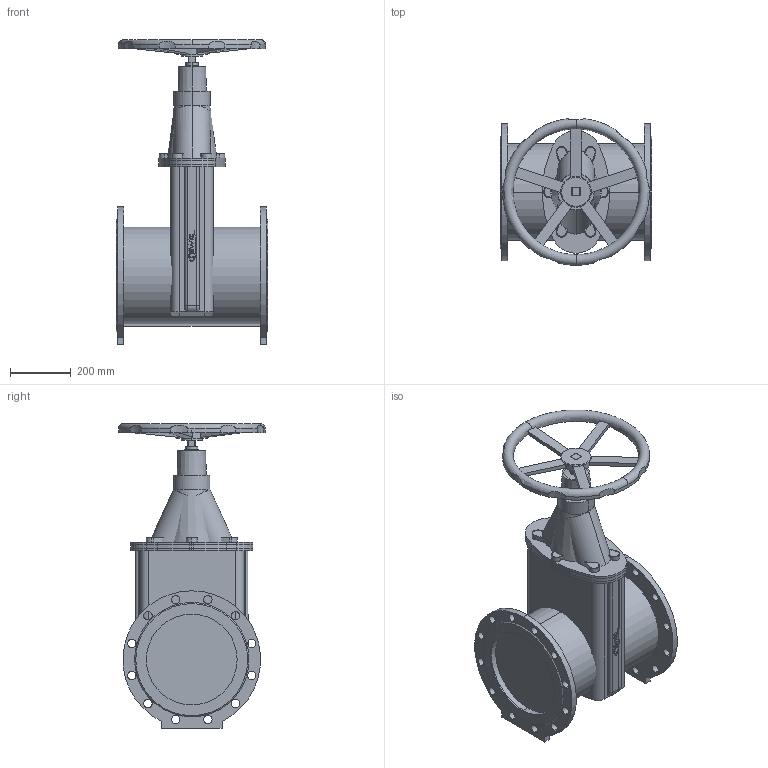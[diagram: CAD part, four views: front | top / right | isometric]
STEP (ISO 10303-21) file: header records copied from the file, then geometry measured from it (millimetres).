
FILE_DESCRIPTION(('STEP AP214'),'1');
FILE_NAME('S:/EK/USER/CAT6/3DHomepage/4700E2/4700E2-PN16-DN300-HANDRAD.STP','2012-04-23T12:46:20',(' '),(' '),'Spatial InterOp 3D',' ',' ');
FILE_SCHEMA(('automotive_design'));
Length unit declared in the file: millimetre
Products named in the file (57): 3D-Objekt
Bounding box: 500 x 484.36 x 1007.5 mm (x, y, z)
Volume: 75776076 mm3; surface area: 3190231.2 mm2
Topology: 57 solids, 57 shells, 574 faces, 1373 edges, 915 vertices
Faces by surface type: plane 284, cylinder 260, torus 12, cone 10, bspline 8
Entity records: 23237 total; most frequent: CARTESIAN_POINT 3325, DIRECTION 3190, ORIENTED_EDGE 2746, EDGE_CURVE 1373, AXIS2_PLACEMENT_3D 1204, VERTEX_POINT 915, LINE 782, VECTOR 782
